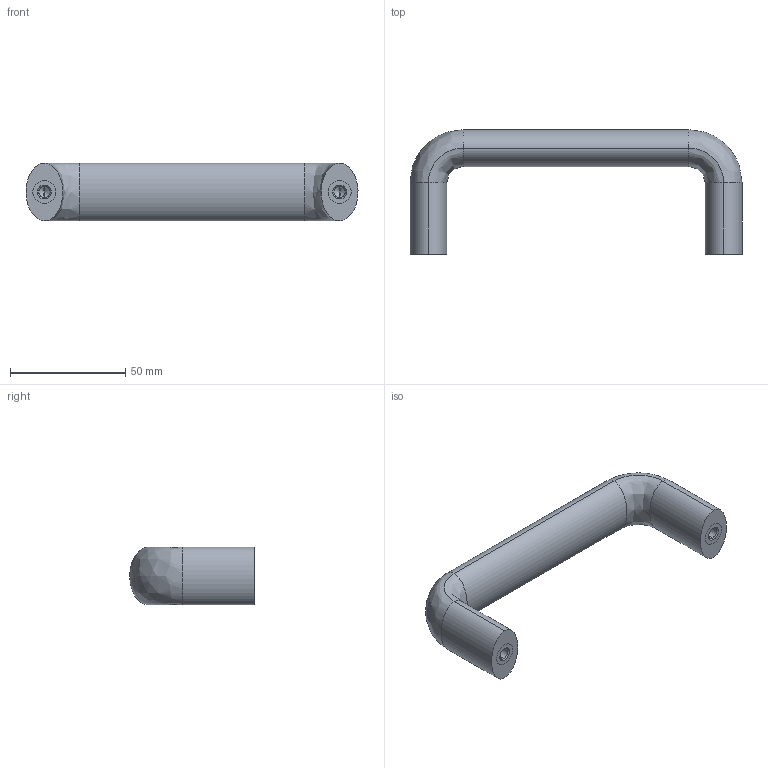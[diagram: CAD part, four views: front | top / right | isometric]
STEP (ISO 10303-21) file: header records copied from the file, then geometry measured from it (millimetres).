
FILE_DESCRIPTION (( 'STEP AP203' ), '1' );
FILE_NAME ('Wiberger-gn564_128-m6.step', '2013-12-16T10:52:53', ( 'Magnus' ), ( 'Wiberger' ), 'SwSTEP 2.0', 'SolidWorks 2011', '' );
FILE_SCHEMA (( 'CONFIG_CONTROL_DESIGN' ));
Length unit declared in the file: millimetre
Products named in the file (1): Wiberger-gn564_128-m6
Bounding box: 143.98 x 53.99 x 25 mm (x, y, z)
Volume: 64653.8 mm3; surface area: 27454.5 mm2
Topology: 2 solids, 2 shells, 46 faces, 102 edges, 58 vertices
Faces by surface type: cylinder 16, bspline 10, torus 8, cone 8, plane 4
Entity records: 1383 total; most frequent: CARTESIAN_POINT 341, DIRECTION 216, ORIENTED_EDGE 196, EDGE_CURVE 98, AXIS2_PLACEMENT_3D 93, VERTEX_POINT 58, CIRCLE 56, EDGE_LOOP 50
